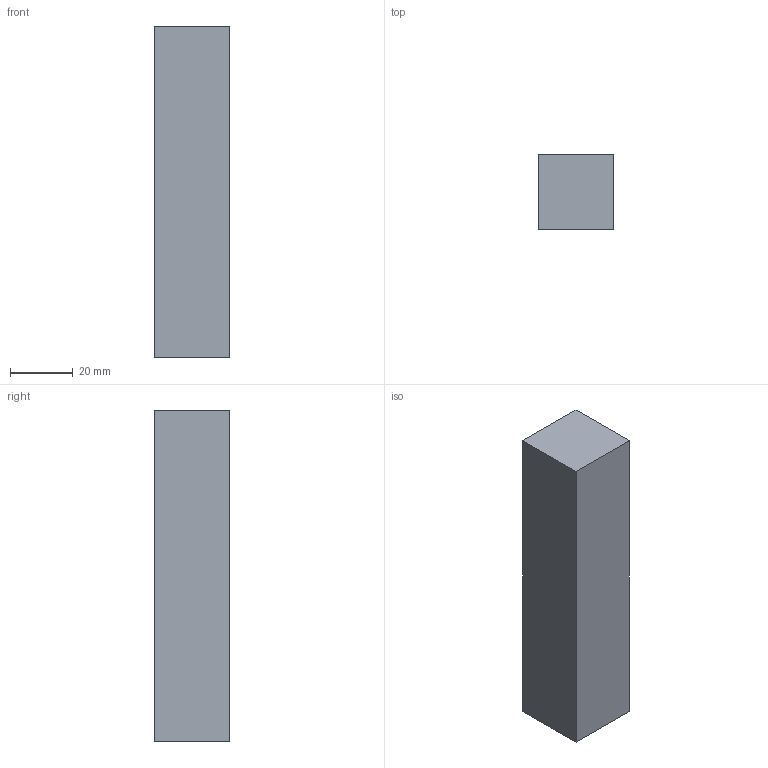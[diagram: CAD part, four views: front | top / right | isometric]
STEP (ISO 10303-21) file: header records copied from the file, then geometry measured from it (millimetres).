
FILE_DESCRIPTION(('Open CASCADE Model'),'2;1');
FILE_NAME('Open CASCADE Shape Model','2026-10-04T02:31:41',('Author'),( 'Open CASCADE'),'Open CASCADE STEP processor 8.0','Open CASCADE 8.0' ,'Unknown');
FILE_SCHEMA(('AUTOMOTIVE_DESIGN { 1 0 10303 214 1 1 1 1 }'));
Length unit declared in the file: millimetre
Products named in the file (1): Open CASCADE STEP translator 8.0 280
Bounding box: 24 x 24 x 106 mm (x, y, z)
Volume: 61056 mm3; surface area: 11328 mm2
Topology: 1 solids, 1 shells, 6 faces, 12 edges, 8 vertices
Faces by surface type: plane 6
Entity records: 322 total; most frequent: CARTESIAN_POINT 51, DIRECTION 50, LINE 36, VECTOR 36, ORIENTED_EDGE 24, PCURVE 24, DEFINITIONAL_REPRESENTATION 24, EDGE_CURVE 12
